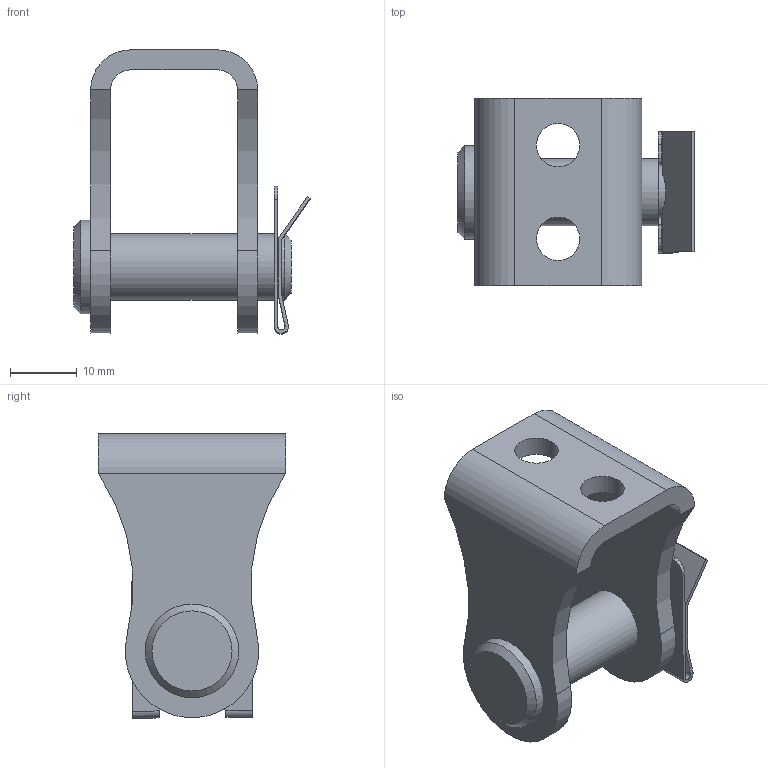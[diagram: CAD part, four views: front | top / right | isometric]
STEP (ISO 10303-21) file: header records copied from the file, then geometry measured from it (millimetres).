
FILE_DESCRIPTION(/* description */ (''),/* implementation_level */ '2;1');
FILE_NAME(/* name */ 'G:\3D-Zeichnungen\Easy-E-line\Beschläge\montiert\Step\EEL900BA35-2KS.stp',/* time_stamp */ '2019-07-17T11:13:08+02:00',/* author */ ('cadneu2'),/* organization */ (''),/* preprocessor_version */ 'ST-DEVELOPER v16.1',/* originating_system */ 'Autodesk Inventor 2016',/* authorisation */ '');
FILE_SCHEMA (('AUTOMOTIVE_DESIGN { 1 0 10303 214 3 1 1 }'));
Length unit declared in the file: millimetre
Products named in the file (4): EEL900BA35U2KS; EEL35-BO-KST; 63790901; EEL900BA35-2KS
Assembly tree (3 placements, depth 2):
  EEL900BA35-2KS
    EEL900BA35U2KS
    EEL35-BO-KST
    63790901
Bounding box: 35.35 x 28 x 42.57 mm (x, y, z)
Volume: 8681.3 mm3; surface area: 7317.3 mm2
Topology: 3 solids, 3 shells, 68 faces, 171 edges, 110 vertices
Faces by surface type: plane 36, cylinder 30, cone 2
Full cylindrical faces by diameter (mm): 6.5 x2, 8 x1, 10 x4, 14 x1
Entity records: 2092 total; most frequent: DIRECTION 373, CARTESIAN_POINT 347, ORIENTED_EDGE 318, EDGE_CURVE 159, AXIS2_PLACEMENT_3D 140, VERTEX_POINT 108, LINE 93, VECTOR 93
